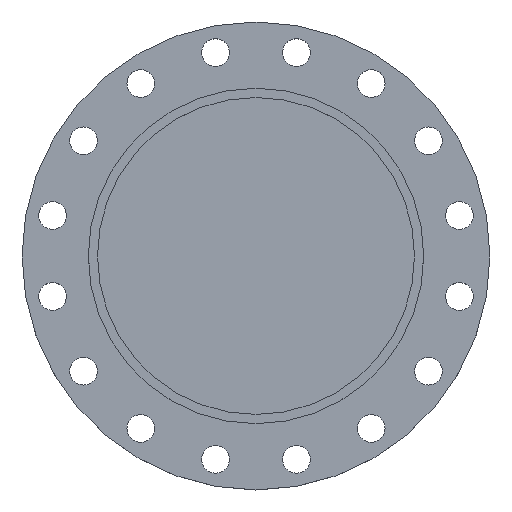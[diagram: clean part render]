
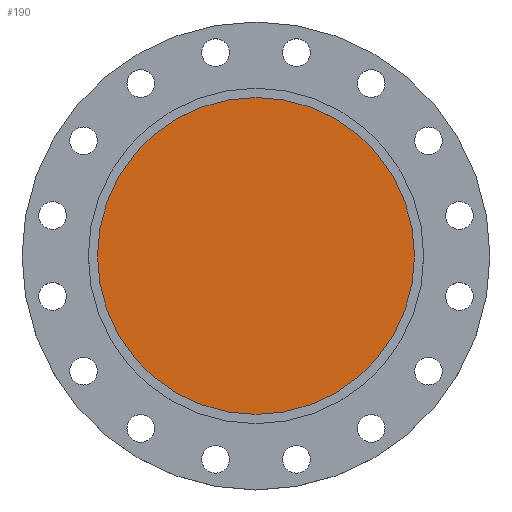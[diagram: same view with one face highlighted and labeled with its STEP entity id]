
A CAD part, top view. The second image highlights one B-rep face of the part: STEP entity #190.
In plain terms, the highlighted planar face has unit normal (0, 0, 1).
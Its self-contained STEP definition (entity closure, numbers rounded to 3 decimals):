
#19 = CIRCLE ( 'NONE', #613, 223.5 ) ;
#190 = ADVANCED_FACE ( 'NONE', ( #954 ), #953, .T. ) ;
#207 = DIRECTION ( 'NONE',  ( -1., 0., 0. ) ) ;
#208 = DIRECTION ( 'NONE',  ( 0., 0., -1. ) ) ;
#209 = CARTESIAN_POINT ( 'NONE',  ( 0., 0., -5.5 ) ) ;
#253 = EDGE_CURVE ( 'NONE', #1451, #1271, #1680, .T. ) ;
#333 = CARTESIAN_POINT ( 'NONE',  ( 223.5, 0., -5.5 ) ) ;
#352 = AXIS2_PLACEMENT_3D ( 'NONE', #924, #921, #920 ) ;
#540 = CARTESIAN_POINT ( 'NONE',  ( -223.5, 0., -5.5 ) ) ;
#613 = AXIS2_PLACEMENT_3D ( 'NONE', #209, #208, #207 ) ;
#920 = DIRECTION ( 'NONE',  ( -1., 0., 0. ) ) ;
#921 = DIRECTION ( 'NONE',  ( 0., 0., -1. ) ) ;
#924 = CARTESIAN_POINT ( 'NONE',  ( 0., 0., -5.5 ) ) ;
#950 = DIRECTION ( 'NONE',  ( 1., 0., 0. ) ) ;
#951 = DIRECTION ( 'NONE',  ( 0., 0., 1. ) ) ;
#952 = CARTESIAN_POINT ( 'NONE',  ( 223.5, 0., -5.5 ) ) ;
#953 = PLANE ( 'NONE',  #1687 ) ;
#954 = FACE_OUTER_BOUND ( 'NONE', #1356, .T. ) ;
#1180 = ORIENTED_EDGE ( 'NONE', *, *, #253, .F. ) ;
#1182 = ORIENTED_EDGE ( 'NONE', *, *, #1641, .F. ) ;
#1271 = VERTEX_POINT ( 'NONE', #540 ) ;
#1356 = EDGE_LOOP ( 'NONE', ( #1182, #1180 ) ) ;
#1451 = VERTEX_POINT ( 'NONE', #333 ) ;
#1641 = EDGE_CURVE ( 'NONE', #1271, #1451, #19, .T. ) ;
#1680 = CIRCLE ( 'NONE', #352, 223.5 ) ;
#1687 = AXIS2_PLACEMENT_3D ( 'NONE', #952, #951, #950 ) ;
